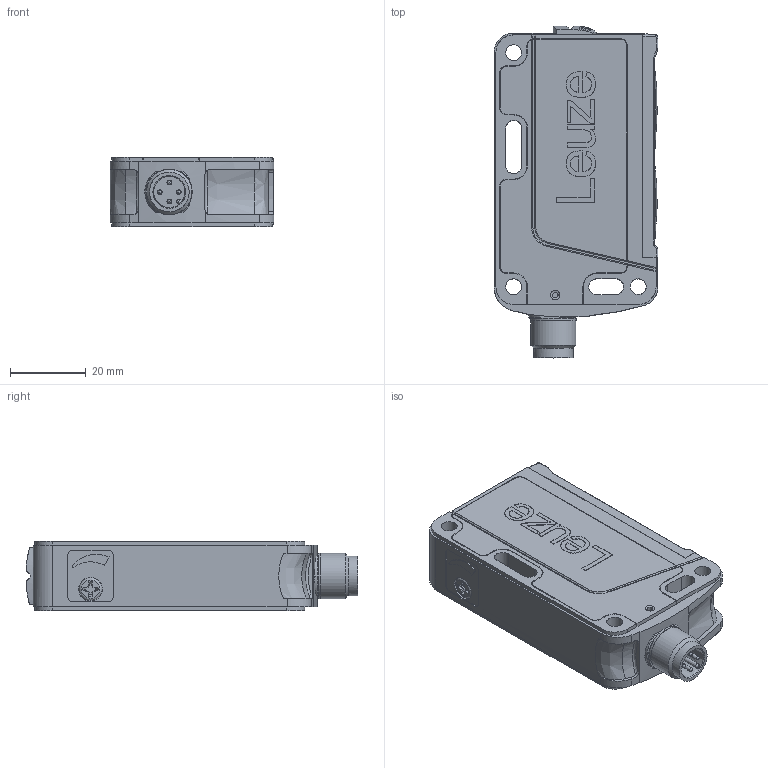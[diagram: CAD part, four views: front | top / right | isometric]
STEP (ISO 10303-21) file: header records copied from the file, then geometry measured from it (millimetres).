
FILE_DESCRIPTION((''),'2;1');
FILE_NAME('E:\temp\hrt46b_stecker_m12.stp','2010-07-28T10:12:51',( 'User'),('SDRC'),'I-DEAS Master Series 9','UNIX','Yes');
FILE_SCHEMA(('CONFIG_CONTROL_DESIGN', 'GEOMETRIC_VALIDATION_PROPERTIES_MIM','SHAPE_APPEARANCE_LAYER_MIM'));
Length unit declared in the file: millimetre
Bounding box: 43.4 x 87.92 x 18.5 mm (x, y, z)
Volume: 54646.9 mm3; surface area: 13705.7 mm2
Topology: 1 solids, 1 shells, 433 faces, 1185 edges, 779 vertices
Faces by surface type: bspline 433
Entity records: 15152 total; most frequent: CARTESIAN_POINT 7510, ORIENTED_EDGE 2348, EDGE_CURVE 1174, VERTEX_POINT 766, B_SPLINE_CURVE_WITH_KNOTS 687, OVER_RIDING_STYLED_ITEM 629, EDGE_LOOP 466, FACE_OUTER_BOUND 433
